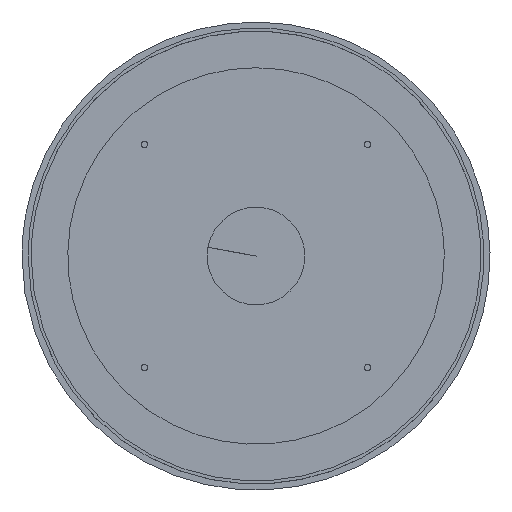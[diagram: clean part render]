
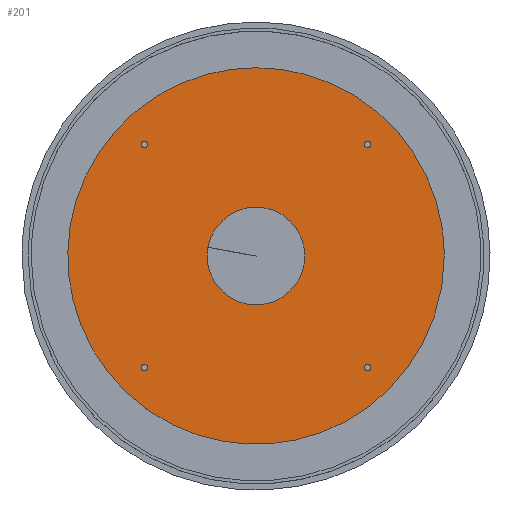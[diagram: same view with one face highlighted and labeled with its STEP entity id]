
A CAD part, top view. The second image highlights one B-rep face of the part: STEP entity #201.
In plain terms, the highlighted planar face has unit normal (0, 0, 1).
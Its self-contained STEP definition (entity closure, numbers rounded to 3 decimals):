
#27=PLANE('',#2723);
#140=FACE_BOUND('',#567,.T.);
#141=FACE_BOUND('',#568,.T.);
#142=FACE_BOUND('',#569,.T.);
#143=FACE_BOUND('',#570,.T.);
#144=FACE_BOUND('',#571,.T.);
#201=ADVANCED_FACE('',(#376,#140,#141,#142,#143,#144),#27,.T.);
#376=FACE_OUTER_BOUND('',#566,.T.);
#566=EDGE_LOOP('',(#888));
#567=EDGE_LOOP('',(#889));
#568=EDGE_LOOP('',(#890));
#569=EDGE_LOOP('',(#891));
#570=EDGE_LOOP('',(#892));
#571=EDGE_LOOP('',(#893));
#888=ORIENTED_EDGE('',*,*,#1568,.F.);
#889=ORIENTED_EDGE('',*,*,#1571,.F.);
#890=ORIENTED_EDGE('',*,*,#1574,.F.);
#891=ORIENTED_EDGE('',*,*,#1577,.F.);
#892=ORIENTED_EDGE('',*,*,#1580,.F.);
#893=ORIENTED_EDGE('',*,*,#1583,.F.);
#1568=EDGE_CURVE('',#2314,#2314,#2078,.T.);
#1571=EDGE_CURVE('',#2316,#2316,#2081,.T.);
#1574=EDGE_CURVE('',#2318,#2318,#2083,.T.);
#1577=EDGE_CURVE('',#2320,#2320,#2085,.T.);
#1580=EDGE_CURVE('',#2322,#2322,#2087,.T.);
#1583=EDGE_CURVE('',#2324,#2324,#2089,.T.);
#2078=(
BOUNDED_CURVE()
B_SPLINE_CURVE(2,(#4782,#4783,#4784,#4785,#4786,#4787,#4788,#4789,#4790),
 .UNSPECIFIED.,.T.,.F.)
B_SPLINE_CURVE_WITH_KNOTS((3,2,2,2,3),(-1225.221,-918.916,
-612.611,-306.305,0.),.UNSPECIFIED.)
CURVE()
GEOMETRIC_REPRESENTATION_ITEM()
RATIONAL_B_SPLINE_CURVE((1.,0.707,1.,0.707,1.,0.707,
1.,0.707,1.))
REPRESENTATION_ITEM('')
);
#2081=(
BOUNDED_CURVE()
B_SPLINE_CURVE(2,(#4802,#4803,#4804,#4805,#4806,#4807,#4808,#4809,#4810),
 .UNSPECIFIED.,.T.,.F.)
B_SPLINE_CURVE_WITH_KNOTS((3,2,2,2,3),(0.,4.869,9.739,
14.608,19.478),.UNSPECIFIED.)
CURVE()
GEOMETRIC_REPRESENTATION_ITEM()
RATIONAL_B_SPLINE_CURVE((1.,0.707,1.,0.707,1.,0.707,
1.,0.707,1.))
REPRESENTATION_ITEM('')
);
#2083=(
BOUNDED_CURVE()
B_SPLINE_CURVE(2,(#4822,#4823,#4824,#4825,#4826,#4827,#4828,#4829,#4830),
 .UNSPECIFIED.,.T.,.F.)
B_SPLINE_CURVE_WITH_KNOTS((3,2,2,2,3),(0.,4.869,9.739,
14.608,19.478),.UNSPECIFIED.)
CURVE()
GEOMETRIC_REPRESENTATION_ITEM()
RATIONAL_B_SPLINE_CURVE((1.,0.707,1.,0.707,1.,0.707,
1.,0.707,1.))
REPRESENTATION_ITEM('')
);
#2085=(
BOUNDED_CURVE()
B_SPLINE_CURVE(2,(#4842,#4843,#4844,#4845,#4846,#4847,#4848,#4849,#4850),
 .UNSPECIFIED.,.T.,.F.)
B_SPLINE_CURVE_WITH_KNOTS((3,2,2,2,3),(0.,4.869,9.739,
14.608,19.478),.UNSPECIFIED.)
CURVE()
GEOMETRIC_REPRESENTATION_ITEM()
RATIONAL_B_SPLINE_CURVE((1.,0.707,1.,0.707,1.,0.707,
1.,0.707,1.))
REPRESENTATION_ITEM('')
);
#2087=(
BOUNDED_CURVE()
B_SPLINE_CURVE(2,(#4862,#4863,#4864,#4865,#4866,#4867,#4868,#4869,#4870),
 .UNSPECIFIED.,.T.,.F.)
B_SPLINE_CURVE_WITH_KNOTS((3,2,2,2,3),(0.,4.869,9.739,
14.608,19.478),.UNSPECIFIED.)
CURVE()
GEOMETRIC_REPRESENTATION_ITEM()
RATIONAL_B_SPLINE_CURVE((1.,0.707,1.,0.707,1.,0.707,
1.,0.707,1.))
REPRESENTATION_ITEM('')
);
#2089=(
BOUNDED_CURVE()
B_SPLINE_CURVE(2,(#4882,#4883,#4884,#4885,#4886,#4887,#4888,#4889,#4890),
 .UNSPECIFIED.,.T.,.F.)
B_SPLINE_CURVE_WITH_KNOTS((3,2,2,2,3),(0.,75.398,150.796,
226.195,301.593),.UNSPECIFIED.)
CURVE()
GEOMETRIC_REPRESENTATION_ITEM()
RATIONAL_B_SPLINE_CURVE((1.,0.707,1.,0.707,1.,0.707,
1.,0.707,1.))
REPRESENTATION_ITEM('')
);
#2314=VERTEX_POINT('',#4634);
#2316=VERTEX_POINT('',#4636);
#2318=VERTEX_POINT('',#4638);
#2320=VERTEX_POINT('',#4640);
#2322=VERTEX_POINT('',#4642);
#2324=VERTEX_POINT('',#4644);
#2723=AXIS2_PLACEMENT_3D('',#4089,#2864,$);
#2864=DIRECTION('',(0.,0.,1.));
#4089=CARTESIAN_POINT('',(231.25,-231.25,56.));
#4634=CARTESIAN_POINT('',(185.,0.,56.));
#4636=CARTESIAN_POINT('',(111.794,107.41,56.));
#4638=CARTESIAN_POINT('',(-107.41,111.794,56.));
#4640=CARTESIAN_POINT('',(-111.794,-107.41,56.));
#4642=CARTESIAN_POINT('',(107.41,-111.794,56.));
#4644=CARTESIAN_POINT('',(48.,0.,56.));
#4782=CARTESIAN_POINT('',(185.,0.,56.));
#4783=CARTESIAN_POINT('',(185.,-185.,56.));
#4784=CARTESIAN_POINT('',(0.,-185.,56.));
#4785=CARTESIAN_POINT('',(-185.,-185.,56.));
#4786=CARTESIAN_POINT('',(-185.,0.,56.));
#4787=CARTESIAN_POINT('',(-185.,185.,56.));
#4788=CARTESIAN_POINT('',(0.,185.,56.));
#4789=CARTESIAN_POINT('',(185.,185.,56.));
#4790=CARTESIAN_POINT('',(185.,0.,56.));
#4802=CARTESIAN_POINT('',(111.794,107.41,56.));
#4803=CARTESIAN_POINT('',(113.986,109.602,56.));
#4804=CARTESIAN_POINT('',(111.794,111.794,56.));
#4805=CARTESIAN_POINT('',(109.602,113.986,56.));
#4806=CARTESIAN_POINT('',(107.41,111.794,56.));
#4807=CARTESIAN_POINT('',(105.217,109.602,56.));
#4808=CARTESIAN_POINT('',(107.41,107.41,56.));
#4809=CARTESIAN_POINT('',(109.602,105.217,56.));
#4810=CARTESIAN_POINT('',(111.794,107.41,56.));
#4822=CARTESIAN_POINT('',(-107.41,111.794,56.));
#4823=CARTESIAN_POINT('',(-109.602,113.986,56.));
#4824=CARTESIAN_POINT('',(-111.794,111.794,56.));
#4825=CARTESIAN_POINT('',(-113.986,109.602,56.));
#4826=CARTESIAN_POINT('',(-111.794,107.41,56.));
#4827=CARTESIAN_POINT('',(-109.602,105.217,56.));
#4828=CARTESIAN_POINT('',(-107.41,107.41,56.));
#4829=CARTESIAN_POINT('',(-105.217,109.602,56.));
#4830=CARTESIAN_POINT('',(-107.41,111.794,56.));
#4842=CARTESIAN_POINT('',(-111.794,-107.41,56.));
#4843=CARTESIAN_POINT('',(-113.986,-109.602,56.));
#4844=CARTESIAN_POINT('',(-111.794,-111.794,56.));
#4845=CARTESIAN_POINT('',(-109.602,-113.986,56.));
#4846=CARTESIAN_POINT('',(-107.41,-111.794,56.));
#4847=CARTESIAN_POINT('',(-105.217,-109.602,56.));
#4848=CARTESIAN_POINT('',(-107.41,-107.41,56.));
#4849=CARTESIAN_POINT('',(-109.602,-105.217,56.));
#4850=CARTESIAN_POINT('',(-111.794,-107.41,56.));
#4862=CARTESIAN_POINT('',(107.41,-111.794,56.));
#4863=CARTESIAN_POINT('',(109.602,-113.986,56.));
#4864=CARTESIAN_POINT('',(111.794,-111.794,56.));
#4865=CARTESIAN_POINT('',(113.986,-109.602,56.));
#4866=CARTESIAN_POINT('',(111.794,-107.41,56.));
#4867=CARTESIAN_POINT('',(109.602,-105.217,56.));
#4868=CARTESIAN_POINT('',(107.41,-107.41,56.));
#4869=CARTESIAN_POINT('',(105.217,-109.602,56.));
#4870=CARTESIAN_POINT('',(107.41,-111.794,56.));
#4882=CARTESIAN_POINT('',(48.,0.,56.));
#4883=CARTESIAN_POINT('',(48.,48.,56.));
#4884=CARTESIAN_POINT('',(0.,48.,56.));
#4885=CARTESIAN_POINT('',(-48.,48.,56.));
#4886=CARTESIAN_POINT('',(-48.,0.,56.));
#4887=CARTESIAN_POINT('',(-48.,-48.,56.));
#4888=CARTESIAN_POINT('',(0.,-48.,56.));
#4889=CARTESIAN_POINT('',(48.,-48.,56.));
#4890=CARTESIAN_POINT('',(48.,0.,56.));
